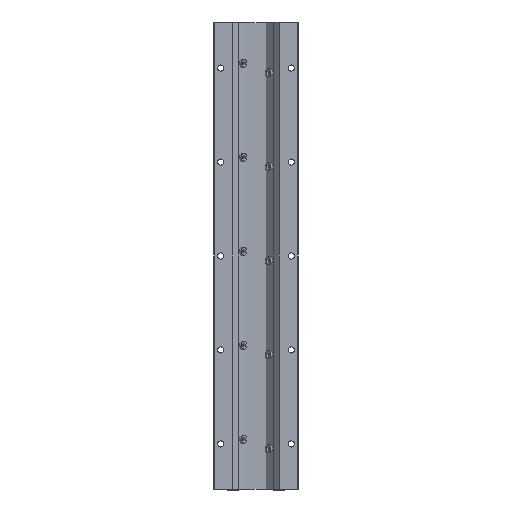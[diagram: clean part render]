
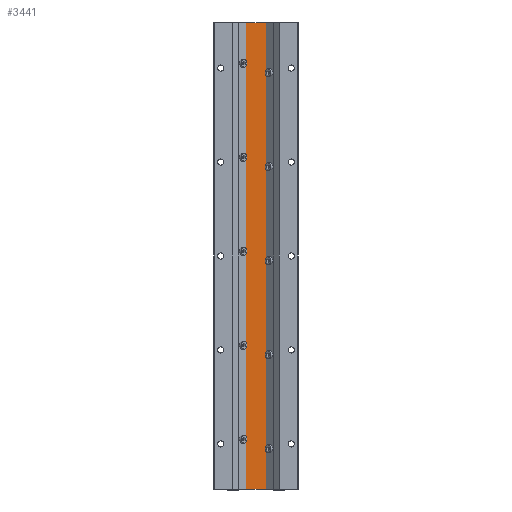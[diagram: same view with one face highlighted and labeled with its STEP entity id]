
A CAD part, front view. The second image highlights one B-rep face of the part: STEP entity #3441.
In plain terms, the highlighted planar face has unit normal (0, -1, 0).
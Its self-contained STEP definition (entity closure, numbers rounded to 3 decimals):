
#1682 = CARTESIAN_POINT ( 'NONE',  ( -11.015, 19., -496. ) ) ;
#1683 = LINE ( 'NONE', #1682, #1757 ) ;
#1684 = CARTESIAN_POINT ( 'NONE',  ( -11.015, 19., -496. ) ) ;
#1756 = DIRECTION ( 'NONE',  ( 0., 0., 1. ) ) ;
#1757 = VECTOR ( 'NONE', #1756, 1000. ) ;
#1918 = CARTESIAN_POINT ( 'NONE',  ( -11.015, 19., 0. ) ) ;
#1919 = LINE ( 'NONE', #1918, #1953 ) ;
#1952 = DIRECTION ( 'NONE',  ( 1., 0., 0. ) ) ;
#1953 = VECTOR ( 'NONE', #1952, 1000. ) ;
#3441 = ADVANCED_FACE ( 'NONE', ( #5896 ), #5891, .T. ) ;
#3442 = EDGE_LOOP ( 'NONE', ( #3443, #3444, #3445, #3447 ) ) ;
#3443 = ORIENTED_EDGE ( 'NONE', *, *, #8369, .F. ) ;
#3444 = ORIENTED_EDGE ( 'NONE', *, *, #8242, .F. ) ;
#3445 = ORIENTED_EDGE ( 'NONE', *, *, #3446, .T. ) ;
#3446 = EDGE_CURVE ( 'NONE', #8240, #8057, #6210, .T. ) ;
#3447 = ORIENTED_EDGE ( 'NONE', *, *, #8056, .T. ) ;
#4308 = LINE ( 'NONE', #4450, #4448 ) ;
#4314 = CARTESIAN_POINT ( 'NONE',  ( 11.015, 19., 0. ) ) ;
#4444 = CARTESIAN_POINT ( 'NONE',  ( 11.015, 19., -496. ) ) ;
#4447 = DIRECTION ( 'NONE',  ( 0., 0., 1. ) ) ;
#4448 = VECTOR ( 'NONE', #4447, 1000. ) ;
#4450 = CARTESIAN_POINT ( 'NONE',  ( 11.015, 19., -496. ) ) ;
#5616 = CARTESIAN_POINT ( 'NONE',  ( -11.015, 19., 0. ) ) ;
#5887 = DIRECTION ( 'NONE',  ( 0., -1., 0. ) ) ;
#5888 = CARTESIAN_POINT ( 'NONE',  ( -11.015, 19., -496. ) ) ;
#5890 = AXIS2_PLACEMENT_3D ( 'NONE', #5888, #5887, #6086 ) ;
#5891 = PLANE ( 'NONE',  #5890 ) ;
#5896 = FACE_OUTER_BOUND ( 'NONE', #3442, .T. ) ;
#6086 = DIRECTION ( 'NONE',  ( 0., 0., -1. ) ) ;
#6207 = DIRECTION ( 'NONE',  ( 1., 0., 0. ) ) ;
#6208 = VECTOR ( 'NONE', #6207, 1000. ) ;
#6209 = CARTESIAN_POINT ( 'NONE',  ( -11.015, 19., -496. ) ) ;
#6210 = LINE ( 'NONE', #6209, #6208 ) ;
#8053 = VERTEX_POINT ( 'NONE', #4314 ) ;
#8056 = EDGE_CURVE ( 'NONE', #8057, #8053, #4308, .T. ) ;
#8057 = VERTEX_POINT ( 'NONE', #4444 ) ;
#8136 = VERTEX_POINT ( 'NONE', #5616 ) ;
#8240 = VERTEX_POINT ( 'NONE', #1684 ) ;
#8242 = EDGE_CURVE ( 'NONE', #8240, #8136, #1683, .T. ) ;
#8369 = EDGE_CURVE ( 'NONE', #8136, #8053, #1919, .T. ) ;
